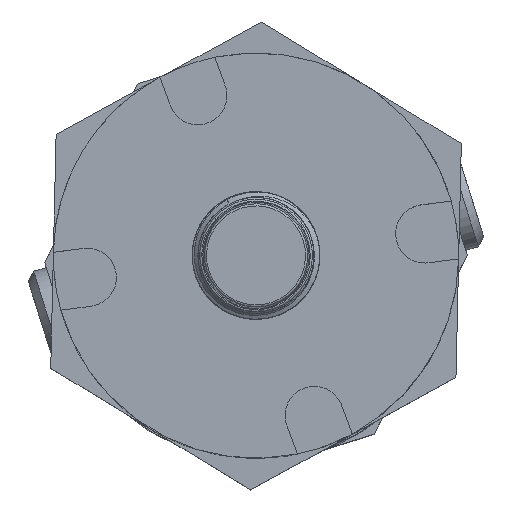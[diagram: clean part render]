
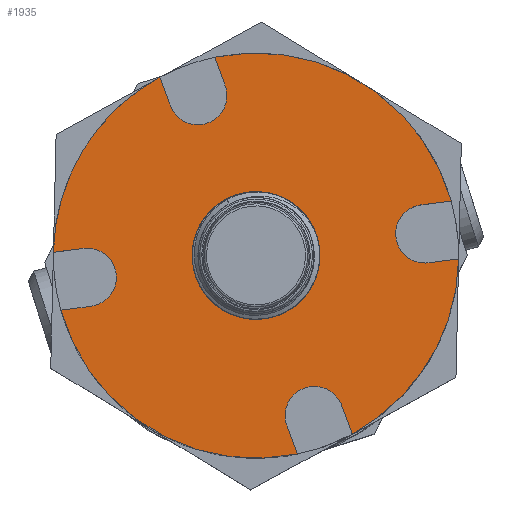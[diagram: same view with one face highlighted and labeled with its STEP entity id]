
A CAD part, top view. The second image highlights one B-rep face of the part: STEP entity #1935.
In plain terms, the highlighted planar face has unit normal (0, 0, 1).
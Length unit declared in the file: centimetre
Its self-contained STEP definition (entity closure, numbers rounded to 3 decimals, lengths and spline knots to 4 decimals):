
#49=FACE_BOUND('',#346,.T.);
#108=PLANE('',#2156);
#220=FACE_OUTER_BOUND('',#345,.T.);
#345=EDGE_LOOP('',(#1660,#1661,#1662,#1663,#1664,#1665,#1666,#1667,#1668,
#1669,#1670,#1671,#1672,#1673,#1674,#1675,#1676));
#346=EDGE_LOOP('',(#1677));
#427=CIRCLE('',#2133,0.53);
#440=CIRCLE('',#2157,0.275);
#441=CIRCLE('',#2158,1.905);
#442=CIRCLE('',#2159,0.275);
#443=CIRCLE('',#2160,1.905);
#444=CIRCLE('',#2161,1.905);
#445=CIRCLE('',#2162,0.275);
#446=CIRCLE('',#2163,1.905);
#447=CIRCLE('',#2164,0.275);
#448=CIRCLE('',#2165,1.905);
#598=LINE('',#8764,#746);
#599=LINE('',#8768,#747);
#600=LINE('',#8772,#748);
#601=LINE('',#8776,#749);
#602=LINE('',#8782,#750);
#603=LINE('',#8786,#751);
#604=LINE('',#8790,#752);
#605=LINE('',#8794,#753);
#746=VECTOR('',#2618,1.);
#747=VECTOR('',#2621,1.);
#748=VECTOR('',#2624,1.);
#749=VECTOR('',#2627,1.);
#750=VECTOR('',#2632,1.);
#751=VECTOR('',#2635,1.);
#752=VECTOR('',#2638,1.);
#753=VECTOR('',#2641,1.);
#902=VERTEX_POINT('',#3896);
#928=VERTEX_POINT('',#8762);
#929=VERTEX_POINT('',#8763);
#930=VERTEX_POINT('',#8765);
#931=VERTEX_POINT('',#8767);
#932=VERTEX_POINT('',#8769);
#933=VERTEX_POINT('',#8771);
#934=VERTEX_POINT('',#8773);
#935=VERTEX_POINT('',#8775);
#936=VERTEX_POINT('',#8777);
#937=VERTEX_POINT('',#8779);
#938=VERTEX_POINT('',#8781);
#939=VERTEX_POINT('',#8783);
#940=VERTEX_POINT('',#8785);
#941=VERTEX_POINT('',#8787);
#942=VERTEX_POINT('',#8789);
#943=VERTEX_POINT('',#8791);
#944=VERTEX_POINT('',#8793);
#1137=EDGE_CURVE('',#902,#902,#427,.T.);
#1182=EDGE_CURVE('',#928,#929,#598,.T.);
#1183=EDGE_CURVE('',#929,#930,#440,.T.);
#1184=EDGE_CURVE('',#930,#931,#599,.T.);
#1185=EDGE_CURVE('',#931,#932,#441,.T.);
#1186=EDGE_CURVE('',#932,#933,#600,.T.);
#1187=EDGE_CURVE('',#933,#934,#442,.T.);
#1188=EDGE_CURVE('',#934,#935,#601,.T.);
#1189=EDGE_CURVE('',#935,#936,#443,.T.);
#1190=EDGE_CURVE('',#936,#937,#444,.T.);
#1191=EDGE_CURVE('',#937,#938,#602,.T.);
#1192=EDGE_CURVE('',#938,#939,#445,.T.);
#1193=EDGE_CURVE('',#939,#940,#603,.T.);
#1194=EDGE_CURVE('',#940,#941,#446,.T.);
#1195=EDGE_CURVE('',#941,#942,#604,.T.);
#1196=EDGE_CURVE('',#942,#943,#447,.T.);
#1197=EDGE_CURVE('',#943,#944,#605,.T.);
#1198=EDGE_CURVE('',#944,#928,#448,.T.);
#1660=ORIENTED_EDGE('',*,*,#1182,.T.);
#1661=ORIENTED_EDGE('',*,*,#1183,.T.);
#1662=ORIENTED_EDGE('',*,*,#1184,.T.);
#1663=ORIENTED_EDGE('',*,*,#1185,.T.);
#1664=ORIENTED_EDGE('',*,*,#1186,.T.);
#1665=ORIENTED_EDGE('',*,*,#1187,.T.);
#1666=ORIENTED_EDGE('',*,*,#1188,.T.);
#1667=ORIENTED_EDGE('',*,*,#1189,.T.);
#1668=ORIENTED_EDGE('',*,*,#1190,.T.);
#1669=ORIENTED_EDGE('',*,*,#1191,.T.);
#1670=ORIENTED_EDGE('',*,*,#1192,.T.);
#1671=ORIENTED_EDGE('',*,*,#1193,.T.);
#1672=ORIENTED_EDGE('',*,*,#1194,.T.);
#1673=ORIENTED_EDGE('',*,*,#1195,.T.);
#1674=ORIENTED_EDGE('',*,*,#1196,.T.);
#1675=ORIENTED_EDGE('',*,*,#1197,.T.);
#1676=ORIENTED_EDGE('',*,*,#1198,.T.);
#1677=ORIENTED_EDGE('',*,*,#1137,.T.);
#1935=ADVANCED_FACE('',(#220,#49),#108,.F.);
#2133=AXIS2_PLACEMENT_3D('',#3897,#2558,#2559);
#2156=AXIS2_PLACEMENT_3D('',#8761,#2616,#2617);
#2157=AXIS2_PLACEMENT_3D('',#8766,#2619,#2620);
#2158=AXIS2_PLACEMENT_3D('',#8770,#2622,#2623);
#2159=AXIS2_PLACEMENT_3D('',#8774,#2625,#2626);
#2160=AXIS2_PLACEMENT_3D('',#8778,#2628,#2629);
#2161=AXIS2_PLACEMENT_3D('',#8780,#2630,#2631);
#2162=AXIS2_PLACEMENT_3D('',#8784,#2633,#2634);
#2163=AXIS2_PLACEMENT_3D('',#8788,#2636,#2637);
#2164=AXIS2_PLACEMENT_3D('',#8792,#2639,#2640);
#2165=AXIS2_PLACEMENT_3D('',#8795,#2642,#2643);
#2558=DIRECTION('center_axis',(0.,0.,
-1.));
#2559=DIRECTION('ref_axis',(-0.464,0.886,0.));
#2616=DIRECTION('center_axis',(0.,0.,
-1.));
#2617=DIRECTION('ref_axis',(0.52,0.854,0.));
#2618=DIRECTION('',(-0.992,-0.128,0.));
#2619=DIRECTION('center_axis',(0.,0.,
-1.));
#2620=DIRECTION('ref_axis',(0.854,-0.52,0.));
#2621=DIRECTION('',(0.992,0.128,0.));
#2622=DIRECTION('center_axis',(0.,0.,
1.));
#2623=DIRECTION('ref_axis',(0.854,-0.52,0.));
#2624=DIRECTION('',(0.342,-0.94,0.));
#2625=DIRECTION('center_axis',(0.,0.,
-1.));
#2626=DIRECTION('ref_axis',(0.854,-0.52,0.));
#2627=DIRECTION('',(-0.342,0.94,0.));
#2628=DIRECTION('center_axis',(0.,0.,
1.));
#2629=DIRECTION('ref_axis',(0.854,-0.52,0.));
#2630=DIRECTION('center_axis',(0.,0.,
1.));
#2631=DIRECTION('ref_axis',(0.854,-0.52,0.));
#2632=DIRECTION('',(0.992,0.128,0.));
#2633=DIRECTION('center_axis',(0.,0.,
-1.));
#2634=DIRECTION('ref_axis',(0.854,-0.52,0.));
#2635=DIRECTION('',(-0.992,-0.128,0.));
#2636=DIRECTION('center_axis',(0.,0.,
1.));
#2637=DIRECTION('ref_axis',(0.854,-0.52,0.));
#2638=DIRECTION('',(-0.342,0.94,0.));
#2639=DIRECTION('center_axis',(0.,0.,
-1.));
#2640=DIRECTION('ref_axis',(0.854,-0.52,0.));
#2641=DIRECTION('',(0.342,-0.94,0.));
#2642=DIRECTION('center_axis',(0.,0.,
1.));
#2643=DIRECTION('ref_axis',(0.854,-0.52,0.));
#3896=CARTESIAN_POINT('',(0.2459,-0.4695,5.1308));
#3897=CARTESIAN_POINT('Origin',(0.,0.,
5.1308));
#8761=CARTESIAN_POINT('Origin',(0.,0.,
5.1308));
#8762=CARTESIAN_POINT('',(1.9047,-0.0311,5.1308));
#8763=CARTESIAN_POINT('',(1.6398,-0.0653,5.1308));
#8764=CARTESIAN_POINT('',(0.8289,-0.1698,5.1308));
#8765=CARTESIAN_POINT('',(1.5697,0.4791,5.1308));
#8766=CARTESIAN_POINT('Origin',(1.5876,0.2047,5.1308));
#8767=CARTESIAN_POINT('',(1.8345,0.5133,5.1308));
#8768=CARTESIAN_POINT('',(0.9096,0.394,5.1308));
#8769=CARTESIAN_POINT('',(-0.3877,1.8651,5.1308));
#8770=CARTESIAN_POINT('Origin',(0.,0.,
5.1308));
#8771=CARTESIAN_POINT('',(-0.2963,1.6142,5.1308));
#8772=CARTESIAN_POINT('',(-0.0163,0.846,5.1308));
#8773=CARTESIAN_POINT('',(-0.812,1.4262,5.1308));
#8774=CARTESIAN_POINT('Origin',(-0.5482,1.504,5.1308));
#8775=CARTESIAN_POINT('',(-0.9035,1.6771,5.1308));
#8776=CARTESIAN_POINT('',(-0.5841,0.8009,5.1308));
#8777=CARTESIAN_POINT('',(-1.6275,0.99,5.1308));
#8778=CARTESIAN_POINT('Origin',(0.,0.,
5.1308));
#8779=CARTESIAN_POINT('',(-1.9047,0.0311,5.1308));
#8780=CARTESIAN_POINT('Origin',(0.,0.,
5.1308));
#8781=CARTESIAN_POINT('',(-1.6398,0.0653,5.1308));
#8782=CARTESIAN_POINT('',(-0.9798,0.1504,5.1308));
#8783=CARTESIAN_POINT('',(-1.5697,-0.4791,5.1308));
#8784=CARTESIAN_POINT('Origin',(-1.5876,-0.2047,5.1308));
#8785=CARTESIAN_POINT('',(-1.8345,-0.5133,5.1308));
#8786=CARTESIAN_POINT('',(-0.7587,-0.3746,5.1308));
#8787=CARTESIAN_POINT('',(0.3877,-1.8651,5.1308));
#8788=CARTESIAN_POINT('Origin',(0.,0.,
5.1308));
#8789=CARTESIAN_POINT('',(0.2963,-1.6142,5.1308));
#8790=CARTESIAN_POINT('',(0.0683,-0.9889,5.1308));
#8791=CARTESIAN_POINT('',(0.812,-1.4262,5.1308));
#8792=CARTESIAN_POINT('Origin',(0.5482,-1.504,5.1308));
#8793=CARTESIAN_POINT('',(0.9035,-1.6771,5.1308));
#8794=CARTESIAN_POINT('',(0.532,-0.658,5.1308));
#8795=CARTESIAN_POINT('Origin',(0.,0.,
5.1308));
